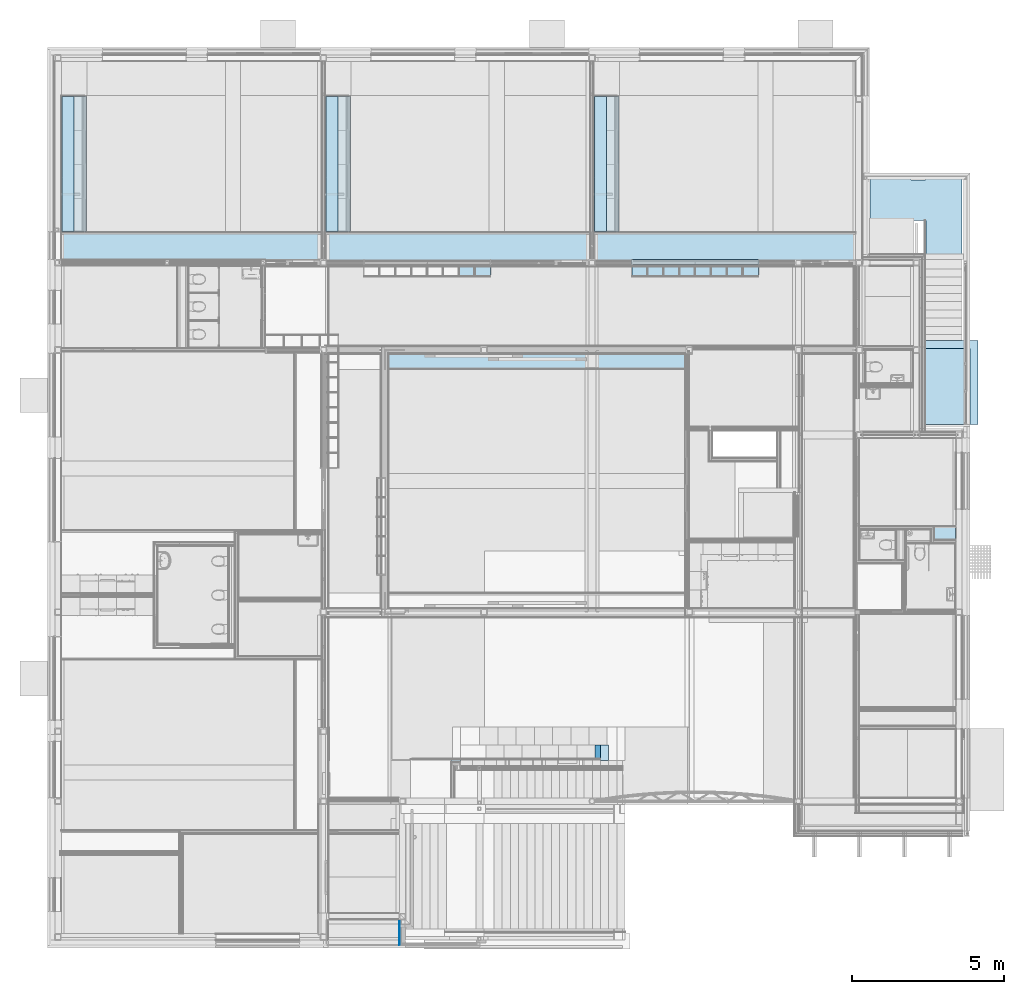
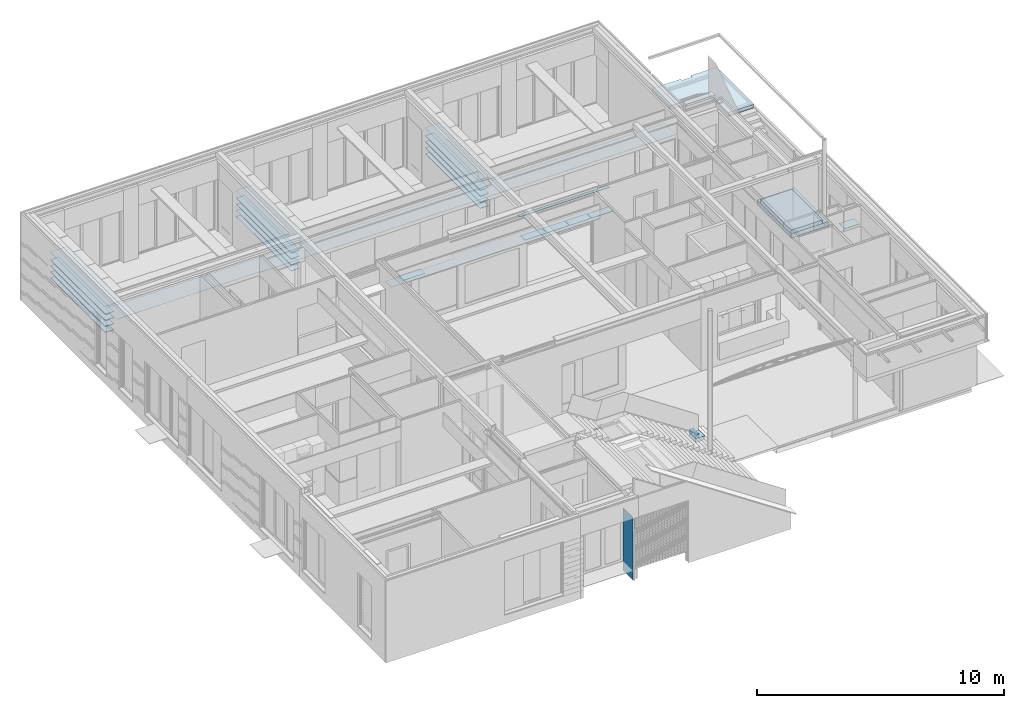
# One storey, part 20 of 165: 30 slabs, 1 wall, 1 element without a shape of its own.
"""IFC2X3 building model written with IfcOpenShell, lengths in millimetres."""

from ifc_helpers import new_model, entity, si_unit, converted_unit, derived_unit, money_unit, direction, frame, origin_with_axes, place, context, subcontext, project, spatial, faceted_brep, material, type_object, element, aggregate, save


model = new_model("IFC2X3")

# Units and contexts
model_context = context("Model", 3, precision=0.01, world=origin_with_axes(), true_north=direction((0.0, 1.0)))
body_context = subcontext(model_context, "Body", "Model", "MODEL_VIEW")
ifc_project = project(units=[si_unit("LENGTHUNIT", "METRE", prefix="MILLI"), si_unit("AREAUNIT", "SQUARE_METRE"), si_unit("VOLUMEUNIT", "CUBIC_METRE"), converted_unit("PLANEANGLEUNIT", "DEGREE", entity("IfcPlaneAngleMeasure", 0.0174532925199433), si_unit("PLANEANGLEUNIT", "RADIAN"), dimensions=[0, 0, 0, 0, 0, 0, 0]), money_unit("EUR"), converted_unit("TIMEUNIT", "Year", entity("IfcTimeMeasure", 31556926.0), si_unit("TIMEUNIT", "SECOND"), dimensions=[0, 0, 1, 0, 0, 0, 0]), si_unit("MASSUNIT", "GRAM", prefix="KILO"), si_unit("THERMODYNAMICTEMPERATUREUNIT", "DEGREE_CELSIUS"), si_unit("LUMINOUSINTENSITYUNIT", "LUMEN"), si_unit("ENERGYUNIT", "JOULE", prefix="MEGA"), derived_unit("THERMALCONDUCTANCEUNIT", [(si_unit("POWERUNIT", "WATT"), 1), (si_unit("LENGTHUNIT", "METRE"), -1), (si_unit("THERMODYNAMICTEMPERATUREUNIT", "KELVIN"), -1)]), derived_unit("SPECIFICHEATCAPACITYUNIT", [(si_unit("ENERGYUNIT", "JOULE"), 1), (si_unit("MASSUNIT", "GRAM", prefix="KILO"), -1), (si_unit("THERMODYNAMICTEMPERATUREUNIT", "KELVIN"), -1)]), derived_unit("MASSDENSITYUNIT", [(si_unit("MASSUNIT", "GRAM", prefix="KILO"), 1), (si_unit("VOLUMEUNIT", "CUBIC_METRE"), -1)])], contexts=[model_context])

# Site, building, storey
site_placement = place(None, origin_with_axes())
site = spatial("IfcSite", under=ifc_project, at=site_placement, Name="Site", CompositionType="ELEMENT")
building_placement = place(site_placement, origin_with_axes())
building = spatial("IfcBuilding", under=site, at=building_placement, Name="Naam gebouw", CompositionType="ELEMENT")
storey_placement = place(building_placement, origin_with_axes())
storey = spatial("IfcBuildingStorey", under=building, at=storey_placement, Name="Begane grond", CompositionType="ELEMENT", Elevation=0.0)

# Slabs
ifc_material_1 = material(Name="Gipsplaat")
slab_type_1 = type_object("IfcSlabType", Name="Gipsplaat 12", PredefinedType="NOTDEFINED")
slab_1_placement = place(storey_placement, frame((11010.00000000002, 18815.00039292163, 2600.0), z_axis=(0.0, 0.0, 1.0), x_axis=(1.0, 0.0, 0.0)))
element("IfcSlab", 1, at=slab_1_placement, inside=storey, type_object=slab_type_1, material=ifc_material_1, Name="f7 Vormvaste grondstoffen, gebonden met gips_Vloer-x", PredefinedType="NOTDEFINED", context=body_context, shape_type="Brep", body=[
    faceted_brep([(0.0, 0.0, 12.00000000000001), (0.0, 0.0, 0.0), (9765.001674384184, 0.0, 0.0), (9765.001674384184, 0.0, 12.00000000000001), (0.0, 500.0, 12.00000000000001), (0.0, 500.0, 0.0), (3264.997950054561, 500.0, 0.0), (3264.997950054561, 769.9999999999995, 0.0), (9765.001674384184, 769.9999999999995, 0.0), (9765.001674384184, 769.9999999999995, 12.00000000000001), (3264.997950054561, 769.9999999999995, 12.00000000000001), (3264.997950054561, 500.0, 12.00000000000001)], [[[0, 1, 2, 3]], [[4, 5, 1, 0]], [[2, 1, 5, 6, 7, 8]], [[3, 2, 8, 9]], [[4, 0, 3, 9, 10, 11]], [[11, 6, 5, 4]], [[10, 7, 6, 11]], [[9, 8, 7, 10]]]),
])
slab_2_placement = place(storey_placement, frame((214.0000000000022, 22419.99474661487, 2600.0), z_axis=(0.0, 0.0, 1.0), x_axis=(1.0, 0.0, 0.0)))
element("IfcSlab", 2, at=slab_2_placement, inside=storey, type_object=slab_type_1, material=ifc_material_1, Name="f7 Vormvaste grondstoffen, gebonden met gips_Vloer-x", PredefinedType="NOTDEFINED", context=body_context, shape_type="Brep", body=[
    faceted_brep([(0.0, 0.0, 12.00000000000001), (0.0, 0.0, 0.0), (6725.999918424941, 0.0, 0.0), (6725.999918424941, 0.0, 12.00000000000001), (0.0, 905.0051004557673, 12.00000000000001), (0.0, 905.0051004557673, 0.0), (26172.0, 905.0051004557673, 0.0), (26172.0, -32.51853254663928, 0.0), (6725.999918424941, -32.51853254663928, 0.0), (6725.999918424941, -32.51853254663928, 12.00000000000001), (26172.0, -32.51853254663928, 12.00000000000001), (26172.0, 905.0051004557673, 12.00000000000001)], [[[0, 1, 2, 3]], [[4, 5, 1, 0]], [[2, 1, 5, 6, 7, 8]], [[3, 2, 8, 9]], [[4, 0, 3, 9, 10, 11]], [[11, 6, 5, 4]], [[10, 7, 6, 11]], [[9, 8, 7, 10]]]),
])
slab_3_placement = place(storey_placement, frame((28985.99999991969, 13649.99778166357, 2600.0), z_axis=(0.0, 0.0, 1.0), x_axis=(1.0, 0.0, 0.0)))
element("IfcSlab", 3, at=slab_3_placement, inside=storey, type_object=slab_type_1, material=ifc_material_1, Name="f7 Vormvaste grondstoffen, gebonden met gips_Vloer-x", PredefinedType="NOTDEFINED", context=body_context, shape_type="Brep", body=[
    faceted_brep([(0.0, 0.0, 12.00000000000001), (0.0, 0.0, 0.0), (0.0, -450.000004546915, 0.0), (0.0, -450.000004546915, 12.00000000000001), (700.0000000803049, 0.0, 12.00000000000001), (700.0000000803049, 0.0, 0.0), (700.0000000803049, -450.000004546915, 0.0), (700.0000000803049, -450.000004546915, 12.00000000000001)], [[[0, 1, 2, 3]], [[4, 5, 1, 0]], [[2, 1, 5, 6]], [[3, 2, 6, 7]], [[4, 0, 3, 7]], [[7, 6, 5, 4]]]),
])
slab_4_placement = place(storey_placement, frame((13053.4853732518, 5970.000491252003, 2674.372804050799), z_axis=(0.0, 0.0, 1.0), x_axis=(1.0, 0.0, 0.0)))
element("IfcSlab", 4, at=slab_4_placement, inside=storey, type_object=slab_type_1, material=ifc_material_1, Name="f7 Vormvaste grondstoffen, gebonden met gips_Vloer-x", PredefinedType="NOTDEFINED", context=body_context, shape_type="Brep", body=[
    faceted_brep([(0.0, -12.49996680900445, 0.805517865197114), (0.0, -12.49996680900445, 12.00000000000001), (3.389416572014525, -12.49996671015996, 11.99999999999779), (305.0847843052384, -12.50005460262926, 12.00000000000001), (305.0847843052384, -12.50005460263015, 0.1271965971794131), (0.0, -12.50000003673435, 0.1271965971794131), (0.0, -3.673417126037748e-08, 0.1271965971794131), (0.0, 0.0, 0.0), (0.0, -100.0007017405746, 0.0), (0.0, -100.0007017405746, 12.00000000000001), (305.0847843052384, -100.0007017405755, 12.00000000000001), (305.0847843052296, -5.460262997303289e-05, 0.1271965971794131), (305.0847843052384, -100.0007017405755, 0.0), (305.0847843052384, 0.0, 0.0)], [[[0, 1, 2, 3, 4, 5]], [[1, 0, 5, 6, 7, 8, 9]], [[2, 1, 9, 10, 3]], [[11, 4, 3, 10, 12, 13]], [[5, 4, 11, 6]], [[7, 6, 11, 13]], [[13, 12, 8, 7]], [[12, 10, 9, 8]]]),
])
ifc_material_2 = material(Name="Beton gewapend C vloer")
slab_type_2 = type_object("IfcSlabType", Name="Beton gewapend C vloer 230", PredefinedType="NOTDEFINED")
slab_5_placement = place(storey_placement, frame((28675.00494938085, 16999.99778167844, 170.0496282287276), z_axis=(0.0, 0.0, 1.0), x_axis=(1.0, 0.0, 0.0)))
element("IfcSlab", 5, at=slab_5_placement, inside=storey, type_object=slab_type_2, material=ifc_material_2, Name="f2- Met cement gebonden producten (alle vulmiddelen)_Vloer-x", PredefinedType="NOTDEFINED", context=body_context, shape_type="Brep", body=[
    faceted_brep([(0.0, 0.0, 0.0), (0.0, 0.0, -229.9999999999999), (1744.995050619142, 0.0, -229.9999999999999), (1744.995050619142, 0.0, 0.0), (0.0, 2770.0, 0.0), (0.0, 2770.0, -229.9999999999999), (1744.995050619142, 2770.0, -229.9999999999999), (1744.995050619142, 2770.0, 0.0)], [[[0, 1, 2, 3]], [[4, 5, 1, 0]], [[2, 1, 5, 6]], [[3, 2, 6, 7]], [[4, 0, 3, 7]], [[7, 6, 5, 4]]]),
])
slab_type_3 = type_object("IfcSlabType", Name="Beton gewapend C vloer 180", PredefinedType="NOTDEFINED")
slab_6_placement = place(storey_placement, frame((28675.00494938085, 16999.99778167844, 350.0496282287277), z_axis=(0.0, 0.0, 1.0), x_axis=(1.0, 0.0, 0.0)))
element("IfcSlab", 6, at=slab_6_placement, inside=storey, type_object=slab_type_3, material=ifc_material_2, Name="f2- Met cement gebonden producten (alle vulmiddelen)_Vloer-x", PredefinedType="NOTDEFINED", context=body_context, shape_type="Brep", body=[
    faceted_brep([(1474.995050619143, 0.0, 0.0), (0.0, 0.0, 0.0), (0.0, 0.0, -180.0000000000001), (1474.995050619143, 0.0, -180.0000000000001), (1474.995050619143, 2500.0, 0.0), (0.0, 2500.0, 0.0), (0.0, 2500.0, -180.0000000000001), (1474.995050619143, 2500.0, -180.0000000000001)], [[[0, 1, 2, 3]], [[4, 5, 1, 0]], [[1, 5, 6, 2]], [[7, 3, 2, 6]], [[4, 0, 3, 7]], [[5, 4, 7, 6]]]),
])
slab_7_placement = place(storey_placement, frame((17800.00001687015, 5930.000252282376, 719.9999999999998), z_axis=(0.0, 0.0, 1.0), x_axis=(1.0, 0.0, 0.0)))
element("IfcSlab", 7, at=slab_7_placement, inside=storey, type_object=slab_type_3, material=ifc_material_2, Name="f2- Met cement gebonden producten (alle vulmiddelen)_Vloer-x", PredefinedType="NOTDEFINED", context=body_context, shape_type="Brep", body=[
    faceted_brep([(0.0, 499.9999876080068, 0.0), (0.0, 0.0, 0.0), (180.0000000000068, -2.862511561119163e-05, 0.0), (180.0000000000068, 499.9999876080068, 0.0), (-3.895159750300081e-07, 499.9999877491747, -179.9999997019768), (-3.895159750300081e-07, -1.436317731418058e-07, -179.9999997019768), (141.7398192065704, -2.287791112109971e-05, -179.9999997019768), (141.7398192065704, 499.9999877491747, -179.9999997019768)], [[[0, 1, 2, 3]], [[1, 0, 4, 5]], [[2, 1, 5, 6]], [[3, 2, 6, 7]], [[0, 3, 7, 4]], [[5, 4, 7, 6]]]),
])
slab_8_placement = place(storey_placement, frame((17800.00001687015, 5930.000296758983, 540.0), z_axis=(0.0, 0.0, 1.0), x_axis=(1.0, 0.0, 0.0)))
element("IfcSlab", 8, at=slab_8_placement, inside=storey, type_object=slab_type_3, material=ifc_material_2, Name="f2- Met cement gebonden producten (alle vulmiddelen)_Vloer-x", PredefinedType="NOTDEFINED", context=body_context, shape_type="Brep", body=[
    faceted_brep([(0.0, 499.9999616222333, 0.0), (0.0, 0.0, 0.0), (450.0000000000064, -0.0001053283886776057, 0.0), (450.0000000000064, 499.9999616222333, 0.0), (-3.895159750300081e-07, 499.9999613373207, -179.9999997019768), (-3.895159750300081e-07, 4.528688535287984e-07, -179.9999997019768), (411.7398187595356, -9.669098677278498e-05, -179.9999997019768), (411.7398187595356, 499.9999613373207, -179.9999997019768)], [[[0, 1, 2, 3]], [[1, 0, 4, 5]], [[2, 1, 5, 6]], [[3, 2, 6, 7]], [[0, 3, 7, 4]], [[5, 4, 7, 6]]]),
])
ifc_material_3 = material(Name="Hout AFW")
slab_type_4 = type_object("IfcSlabType", Name="Hout AFW 18", PredefinedType="NOTDEFINED")
slab_9_placement = place(storey_placement, frame((21109.98676009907, 21862.47621406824, 268.0), z_axis=(0.0, 0.0, 1.0), x_axis=(1.0, 0.0, 0.0)))
element("IfcSlab", 9, at=slab_9_placement, inside=storey, type_object=slab_type_4, material=ifc_material_3, Name="i HOUT_Vloer-x", PredefinedType="NOTDEFINED", context=body_context, shape_type="Brep", body=[
    faceted_brep([(0.0, 0.0, 18.00000000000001), (0.0, 0.0, 0.0), (1024.991813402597, 0.0, 0.0), (1024.991813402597, 0.0, 18.00000000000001), (0.0, 380.006513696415, 18.00000000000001), (0.0, 380.006513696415, 0.0), (1024.991813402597, 380.006513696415, 0.0), (1024.991813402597, 380.006513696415, 18.00000000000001)], [[[0, 1, 2, 3]], [[4, 5, 1, 0]], [[2, 1, 5, 6]], [[3, 2, 6, 7]], [[4, 0, 3, 7]], [[7, 6, 5, 4]]]),
])
slab_10_placement = place(storey_placement, frame((20064.99494669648, 21862.47621406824, 268.0), z_axis=(0.0, 0.0, 1.0), x_axis=(1.0, 0.0, 0.0)))
element("IfcSlab", 10, at=slab_10_placement, inside=storey, type_object=slab_type_4, material=ifc_material_3, Name="i HOUT_Vloer-x", PredefinedType="NOTDEFINED", context=body_context, shape_type="Brep", body=[
    faceted_brep([(0.0, 0.0, 18.00000000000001), (0.0, 0.0, 0.0), (1024.991813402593, 0.0, 0.0), (1024.991813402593, 0.0, 18.00000000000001), (0.0, 380.006513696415, 18.00000000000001), (0.0, 380.006513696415, 0.0), (1024.991813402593, 380.006513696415, 0.0), (1024.991813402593, 380.006513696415, 18.00000000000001)], [[[0, 1, 2, 3]], [[4, 5, 1, 0]], [[2, 1, 5, 6]], [[3, 2, 6, 7]], [[4, 0, 3, 7]], [[7, 6, 5, 4]]]),
])
for number, where, z_axis, x_axis, name in (
    (11, (22154.97857350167, 21862.47621406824, 268.0), (0.0, 0.0, 1.0), (1.0, 0.0, 0.0), "i HOUT_Vloer-x"),
    (12, (13324.97953350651, 21862.47621406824, 268.0), (0.0, 0.0, 1.0), (1.0, 0.0, 0.0), "i HOUT_Vloer-x"),
):
    element("IfcSlab", number, at=place(storey_placement, frame(where, z_axis=z_axis, x_axis=x_axis)), inside=storey, type_object=slab_type_4, material=ifc_material_3, Name=name, PredefinedType="NOTDEFINED", context=body_context, shape_type="Brep", body=[
        faceted_brep([(0.0, 0.0, 18.00000000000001), (0.0, 0.0, 0.0), (1025.020466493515, 0.0, 0.0), (1025.020466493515, 0.0, 18.00000000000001), (0.0, 380.006513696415, 18.00000000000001), (0.0, 380.006513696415, 0.0), (1025.020466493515, 380.006513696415, 0.0), (1025.020466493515, 380.006513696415, 18.00000000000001)], [[[0, 1, 2, 3]], [[4, 5, 1, 0]], [[2, 1, 5, 6]], [[3, 2, 6, 7]], [[4, 0, 3, 7]], [[7, 6, 5, 4]]]),
    ])
slab_11_placement = place(storey_placement, frame((19019.99903999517, 22242.48272776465, 268.0), z_axis=(0.0, 0.0, 1.0), x_axis=(1.0, 0.0, 0.0)))
element("IfcSlab", 13, at=slab_11_placement, inside=storey, type_object=slab_type_4, material=ifc_material_3, Name="i HOUT_Vloer-x", PredefinedType="NOTDEFINED", context=body_context, shape_type="Brep", body=[
    faceted_brep([(0.0, 0.0, 18.00000000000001), (0.0, 0.0, 0.0), (0.0, -380.006513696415, 0.0), (0.0, -380.006513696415, 18.00000000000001), (1024.995906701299, 0.0, 18.00000000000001), (1024.995906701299, 0.0, 0.0), (1024.995906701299, -380.006513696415, 0.0), (1024.995906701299, -380.006513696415, 18.00000000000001)], [[[0, 1, 2, 3]], [[4, 5, 1, 0]], [[2, 1, 5, 6]], [[3, 2, 6, 7]], [[4, 0, 3, 7]], [[7, 6, 5, 4]]]),
])
ifc_material_4 = material(Name="Hout - Multiplex")
slab_type_5 = type_object("IfcSlabType", Name="Hout - Multiplex 20", PredefinedType="NOTDEFINED")
for number, where, z_axis, x_axis in (
    (14, (18184.49942456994, 23347.99984707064, 2300.0), (0.0, 0.0, 1.0), (1.0, 0.0, 0.0)),
    (15, (18184.49942456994, 23347.99984707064, 2000.0), (0.0, 0.0, 1.0), (1.0, 0.0, 0.0)),
    (16, (18184.49942456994, 23347.99984707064, 1400.0), (0.0, 0.0, 1.0), (1.0, 0.0, 0.0)),
    (17, (18184.49942456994, 23347.99984707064, 1700.0), (0.0, 0.0, 1.0), (1.0, 0.0, 0.0)),
):
    element("IfcSlab", number, at=place(storey_placement, frame(where, z_axis=z_axis, x_axis=x_axis)), inside=storey, type_object=slab_type_5, material=ifc_material_4, Name="i4 In lagen verlijmd hout_Vloer-x", PredefinedType="NOTDEFINED", context=body_context, shape_type="Brep", body=[
        faceted_brep([(0.0, 0.0, 0.0), (0.0, 0.0, -20.00000000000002), (0.0, 4460.000000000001, -20.00000000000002), (0.0, 4460.000000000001, 0.0), (-400.0000000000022, 0.0, 0.0), (-400.0000000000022, 0.0, -20.00000000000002), (-400.0000000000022, 4460.000000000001, -20.00000000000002), (-400.0000000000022, 4460.000000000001, 0.0)], [[[0, 1, 2, 3]], [[4, 5, 1, 0]], [[2, 1, 5, 6]], [[3, 2, 6, 7]], [[4, 0, 3, 7]], [[7, 6, 5, 4]]]),
    ])
slab_12_placement = place(storey_placement, frame((18589.49942456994, 23347.99984707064, 2690.0), z_axis=(0.0, 0.0, 1.0), x_axis=(1.0, 0.0, 0.0)))
element("IfcSlab", 18, at=slab_12_placement, inside=storey, type_object=slab_type_5, material=ifc_material_4, Name="i4 In lagen verlijmd hout_Vloer-x", PredefinedType="NOTDEFINED", context=body_context, shape_type="Brep", body=[
    faceted_brep([(0.0, 0.0, 0.0), (0.0, 0.0, -20.00000000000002), (0.0, 4460.000000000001, -20.00000000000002), (0.0, 4460.000000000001, 0.0), (-825.0000000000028, 0.0, 0.0), (-825.0000000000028, 0.0, -20.00000000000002), (-825.0000000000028, 4460.000000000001, -20.00000000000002), (-825.0000000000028, 4460.000000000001, 0.0)], [[[0, 1, 2, 3]], [[4, 5, 1, 0]], [[2, 1, 5, 6]], [[3, 2, 6, 7]], [[4, 0, 3, 7]], [[7, 6, 5, 4]]]),
])
slab_13_placement = place(storey_placement, frame((23199.99909956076, 22437.47925041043, 1200.000000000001), z_axis=(0.0, 0.0, 1.0), x_axis=(1.0, 0.0, 0.0)))
element("IfcSlab", 19, at=slab_13_placement, inside=storey, type_object=slab_type_5, material=ifc_material_4, Name="i4 In lagen verlijmd hout_Vloer-x", PredefinedType="NOTDEFINED", context=body_context, shape_type="Brep", body=[
    faceted_brep([(0.0, 0.0, 0.0), (0.0, 0.0, -20.00000000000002), (-4199.99990469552, 0.0, -20.00000000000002), (-4199.99990469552, 0.0, 0.0), (0.0, -174.9999999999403, 0.0), (0.0, -174.9999999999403, -20.00000000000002), (-4199.99990469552, -174.9999999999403, -20.00000000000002), (-4199.99990469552, -174.9999999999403, 0.0)], [[[0, 1, 2, 3]], [[4, 5, 1, 0]], [[2, 1, 5, 6]], [[3, 2, 6, 7]], [[4, 0, 3, 7]], [[7, 6, 5, 4]]]),
])
for number, where, z_axis, x_axis in (
    (20, (9334.500000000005, 23347.99984707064, 1400.0), (0.0, 0.0, 1.0), (1.0, 0.0, 0.0)),
    (21, (9334.500000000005, 23347.99984707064, 1700.0), (0.0, 0.0, 1.0), (1.0, 0.0, 0.0)),
    (22, (9334.500000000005, 23347.99984707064, 2300.0), (0.0, 0.0, 1.0), (1.0, 0.0, 0.0)),
    (23, (9334.500000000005, 23347.99984707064, 2000.0), (0.0, 0.0, 1.0), (1.0, 0.0, 0.0)),
):
    element("IfcSlab", number, at=place(storey_placement, frame(where, z_axis=z_axis, x_axis=x_axis)), inside=storey, type_object=slab_type_5, material=ifc_material_4, Name="i4 In lagen verlijmd hout_Vloer-x", PredefinedType="NOTDEFINED", context=body_context, shape_type="Brep", body=[
        faceted_brep([(0.0, 0.0, 0.0), (0.0, 0.0, -20.00000000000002), (0.0, 4460.000000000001, -20.00000000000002), (0.0, 4460.000000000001, 0.0), (-400.0000000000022, 0.0, 0.0), (-400.0000000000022, 0.0, -20.00000000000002), (-400.0000000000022, 4460.000000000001, -20.00000000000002), (-400.0000000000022, 4460.000000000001, 0.0)], [[[0, 1, 2, 3]], [[4, 5, 1, 0]], [[2, 1, 5, 6]], [[3, 2, 6, 7]], [[4, 0, 3, 7]], [[7, 6, 5, 4]]]),
    ])
slab_14_placement = place(storey_placement, frame((9739.500000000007, 23347.99984707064, 2690.0), z_axis=(0.0, 0.0, 1.0), x_axis=(1.0, 0.0, 0.0)))
element("IfcSlab", 24, at=slab_14_placement, inside=storey, type_object=slab_type_5, material=ifc_material_4, Name="i4 In lagen verlijmd hout_Vloer-x", PredefinedType="NOTDEFINED", context=body_context, shape_type="Brep", body=[
    faceted_brep([(0.0, 0.0, 0.0), (0.0, 0.0, -20.00000000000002), (0.0, 4460.000000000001, -20.00000000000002), (0.0, 4460.000000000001, 0.0), (-825.0000000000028, 0.0, 0.0), (-825.0000000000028, 0.0, -20.00000000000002), (-825.0000000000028, 4460.000000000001, -20.00000000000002), (-825.0000000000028, 4460.000000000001, 0.0)], [[[0, 1, 2, 3]], [[4, 5, 1, 0]], [[2, 1, 5, 6]], [[3, 2, 6, 7]], [[4, 0, 3, 7]], [[7, 6, 5, 4]]]),
])
for number, where, z_axis, x_axis in (
    (25, (636.0000000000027, 23347.99984707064, 1400.0), (0.0, 0.0, 1.0), (1.0, 0.0, 0.0)),
    (26, (636.0000000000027, 23347.99984707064, 1700.0), (0.0, 0.0, 1.0), (1.0, 0.0, 0.0)),
    (27, (636.0000000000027, 23347.99984707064, 2000.0), (0.0, 0.0, 1.0), (1.0, 0.0, 0.0)),
    (28, (636.0000000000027, 23347.99984707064, 2300.0), (0.0, 0.0, 1.0), (1.0, 0.0, 0.0)),
):
    element("IfcSlab", number, at=place(storey_placement, frame(where, z_axis=z_axis, x_axis=x_axis)), inside=storey, type_object=slab_type_5, material=ifc_material_4, Name="i4 In lagen verlijmd hout_Vloer-x", PredefinedType="NOTDEFINED", context=body_context, shape_type="Brep", body=[
        faceted_brep([(0.0, 0.0, 0.0), (0.0, 0.0, -20.00000000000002), (0.0, 4460.000000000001, -20.00000000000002), (0.0, 4460.000000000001, 0.0), (-400.0000000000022, 0.0, 0.0), (-400.0000000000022, 0.0, -20.00000000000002), (-400.0000000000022, 4460.000000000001, -20.00000000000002), (-400.0000000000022, 4460.000000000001, 0.0)], [[[0, 1, 2, 3]], [[4, 5, 1, 0]], [[2, 1, 5, 6]], [[3, 2, 6, 7]], [[4, 0, 3, 7]], [[7, 6, 5, 4]]]),
    ])
slab_15_placement = place(storey_placement, frame((1041.000000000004, 23347.99984707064, 2690.0), z_axis=(0.0, 0.0, 1.0), x_axis=(1.0, 0.0, 0.0)))
element("IfcSlab", 29, at=slab_15_placement, inside=storey, type_object=slab_type_5, material=ifc_material_4, Name="i4 In lagen verlijmd hout_Vloer-x", PredefinedType="NOTDEFINED", context=body_context, shape_type="Brep", body=[
    faceted_brep([(0.0, 0.0, 0.0), (0.0, 0.0, -20.00000000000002), (0.0, 4460.000000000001, -20.00000000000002), (0.0, 4460.000000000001, 0.0), (-825.0000000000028, 0.0, 0.0), (-825.0000000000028, 0.0, -20.00000000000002), (-825.0000000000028, 4460.000000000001, -20.00000000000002), (-825.0000000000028, 4460.000000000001, 0.0)], [[[0, 1, 2, 3]], [[4, 5, 1, 0]], [[2, 1, 5, 6]], [[3, 2, 6, 7]], [[4, 0, 3, 7]], [[7, 6, 5, 4]]]),
])

# Stair, slab
stair_placement = place(storey_placement, frame((28683.00498249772, 19522.76208257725, 350.0496907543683), z_axis=(0.0, 0.0, 1.0), x_axis=(1.0, 0.0, 0.0)))
stair = element("IfcStair", 30, at=stair_placement, inside=storey, Name="24_Trap-x", ShapeType="NOTDEFINED")
ifc_material_5 = material(Name="Beton C")
slab_type_6 = type_object("IfcSlabType", Name="IfcSlab", PredefinedType="LANDING")
slab_16_placement = place(stair_placement, origin_with_axes())
slab_16 = element("IfcSlab", 31, at=slab_16_placement, type_object=slab_type_6, material=ifc_material_5, Name="24_Trapconstructie-x", PredefinedType="LANDING", context=body_context, shape_type="Brep", body=[
    faceted_brep([(-1813.994797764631, 4198.201716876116, 2700.0), (-463.9947984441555, 4198.201716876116, 2700.0), (16.99504252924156, 4198.533121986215, 2700.0), (16.99499720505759, 2599.9743086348, 2700.0), (1216.995009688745, 2599.9743086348, 2700.0), (1216.995009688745, 5641.625905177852, 2700.0), (5.99998471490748, 5641.625905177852, 2700.0), (5.999939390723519, 5528.525885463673, 2700.0), (-473.9948170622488, 5528.195154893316, 2700.0), (-473.9948170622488, 5627.613525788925, 2700.0), (-1813.994797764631, 5627.61348046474, 2700.0), (-463.9947984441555, 4198.201716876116, 2500.0), (-1813.994797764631, 4198.201716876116, 2500.0), (16.99504252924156, 4198.533121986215, 2500.0), (16.99499720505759, 2599.9743086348, 2520.0), (16.99501276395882, 2638.23448482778, 2520.0), (16.99499720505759, 2599.9743086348, 2500.0), (1216.995019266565, 2638.234495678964, 2520.0), (1216.995009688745, 2599.9743086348, 2520.0), (1216.995009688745, 2599.9743086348, 2500.0), (1216.995009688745, 5641.625905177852, 2500.0), (5.99998471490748, 5641.625905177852, 2500.0), (5.999939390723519, 5528.525885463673, 2500.0), (-473.9948170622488, 5528.195154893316, 2500.0), (-473.9948170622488, 5627.613525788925, 2500.0), (-1813.994797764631, 5627.61348046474, 2500.0)], [[[0, 1, 2, 3, 4, 5, 6, 7, 8, 9, 10]], [[11, 1, 0, 12]], [[1, 11, 13, 2]], [[14, 15, 3, 2, 13, 16]], [[15, 17, 4, 3]], [[4, 17, 18, 19, 20, 5]], [[6, 5, 20, 21]], [[7, 6, 21, 22]], [[8, 7, 22, 23]], [[9, 8, 23, 24]], [[10, 9, 24, 25]], [[12, 0, 10, 25]], [[11, 12, 25, 24, 23, 22, 21, 20, 19, 16, 13]], [[14, 18, 17, 15]], [[19, 18, 14, 16]]]),
])
aggregate(stair, [slab_16])

# Wall
ifc_material_6 = material(Name="Metaal - Staal C")
wall_type = type_object("IfcWallType", Name="Metaal - Staal C 6", PredefinedType="NOTDEFINED")
wall_placement = place(storey_placement, frame((11354.00000000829, 617.0000000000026, -485.0), z_axis=(0.0, 0.0, 1.0), x_axis=(0.0, -1.0, 0.0)))
element("IfcWall", 32, at=wall_placement, inside=storey, type_object=wall_type, material=ifc_material_6, Name="21_Wand-x", context=body_context, shape_type="Brep", body=[
    faceted_brep([(791.0001676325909, 6.000000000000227, 0.0), (791.0001676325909, 0.0, 0.0), (0.0, 0.0, 0.0), (0.0, 6.000000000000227, 0.0), (791.0001676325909, 6.000000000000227, 3095.0), (791.0001676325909, 0.0, 3095.0), (0.0, 0.0, 3095.0), (0.0, 6.000000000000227, 3095.0)], [[[0, 1, 2, 3]], [[1, 0, 4, 5]], [[1, 5, 6, 2]], [[7, 3, 2, 6]], [[4, 0, 3, 7]], [[5, 4, 7, 6]]]),
])

save(model, "model.ifc")
